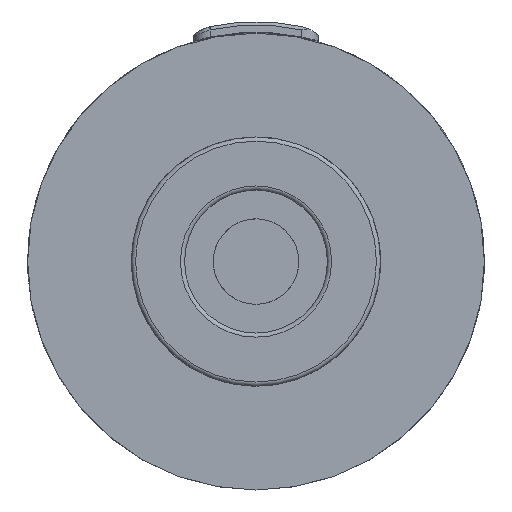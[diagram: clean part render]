
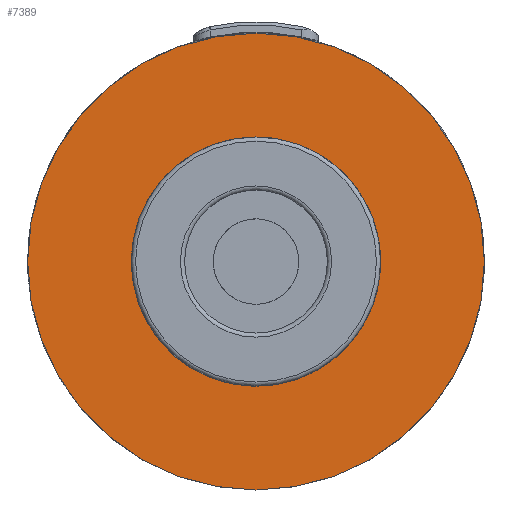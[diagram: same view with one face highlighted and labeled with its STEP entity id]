
A CAD part, front view. The second image highlights one B-rep face of the part: STEP entity #7389.
In plain terms, the highlighted planar face has unit normal (0, -1, 0).
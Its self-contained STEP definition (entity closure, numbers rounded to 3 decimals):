
#1508 = CARTESIAN_POINT ( 'NONE',  ( 36.654, -10.44, -27.5 ) ) ;
#2091 = AXIS2_PLACEMENT_3D ( 'NONE', #4972, #24774, #5102 ) ;
#2446 = CIRCLE ( 'NONE', #17202, 7.35 ) ;
#4972 = CARTESIAN_POINT ( 'NONE',  ( 36.654, -10.44, 0. ) ) ;
#5102 = DIRECTION ( 'NONE',  ( 0., 0., -1. ) ) ;
#7389 = ADVANCED_FACE ( 'NONE', ( #11830, #26087 ), #11587, .T. ) ;
#7583 = VERTEX_POINT ( 'NONE', #11667 ) ;
#7879 = CARTESIAN_POINT ( 'NONE',  ( 36.654, -10.44, 0. ) ) ;
#8006 = DIRECTION ( 'NONE',  ( 0., -1., 0. ) ) ;
#11456 = AXIS2_PLACEMENT_3D ( 'NONE', #7879, #8006, #19762 ) ;
#11587 = PLANE ( 'NONE',  #11456 ) ;
#11667 = CARTESIAN_POINT ( 'NONE',  ( 44.004, -10.44, 0. ) ) ;
#11830 = FACE_OUTER_BOUND ( 'NONE', #18012, .T. ) ;
#13522 = VERTEX_POINT ( 'NONE', #1508 ) ;
#14948 = EDGE_CURVE ( 'NONE', #13522, #13522, #15586, .T. ) ;
#15586 = CIRCLE ( 'NONE', #2091, 27.5 ) ;
#17202 = AXIS2_PLACEMENT_3D ( 'NONE', #22949, #18731, #18851 ) ;
#17430 = EDGE_CURVE ( 'NONE', #7583, #7583, #2446, .T. ) ;
#18012 = EDGE_LOOP ( 'NONE', ( #23037 ) ) ;
#18731 = DIRECTION ( 'NONE',  ( 0., 1., 0. ) ) ;
#18851 = DIRECTION ( 'NONE',  ( 1., 0., 0. ) ) ;
#19762 = DIRECTION ( 'NONE',  ( 1., 0., 0. ) ) ;
#20301 = EDGE_LOOP ( 'NONE', ( #24707 ) ) ;
#22949 = CARTESIAN_POINT ( 'NONE',  ( 36.654, -10.44, 0. ) ) ;
#23037 = ORIENTED_EDGE ( 'NONE', *, *, #14948, .F. ) ;
#24707 = ORIENTED_EDGE ( 'NONE', *, *, #17430, .T. ) ;
#24774 = DIRECTION ( 'NONE',  ( 0., 1., 0. ) ) ;
#26087 = FACE_BOUND ( 'NONE', #20301, .T. ) ;
